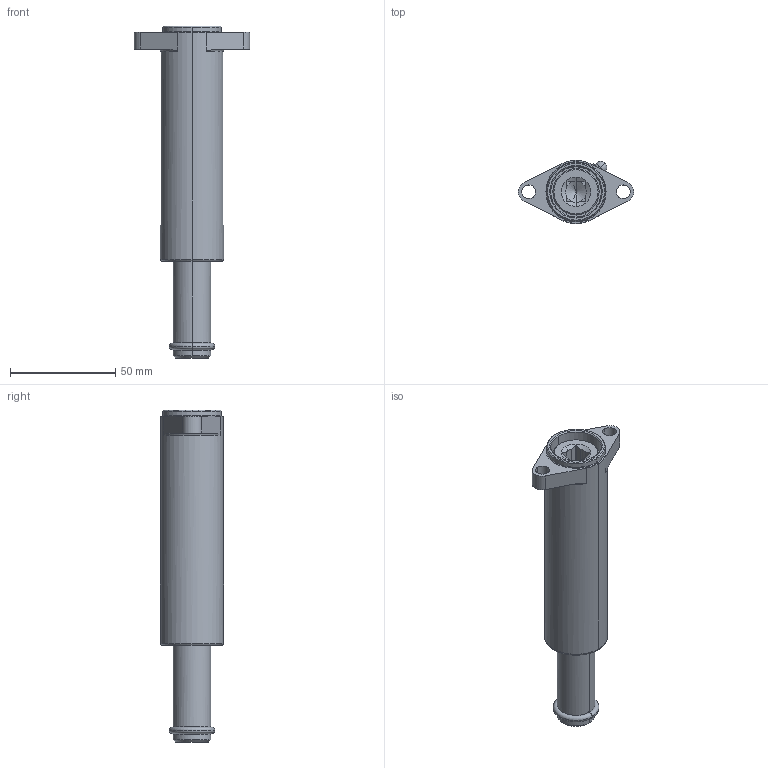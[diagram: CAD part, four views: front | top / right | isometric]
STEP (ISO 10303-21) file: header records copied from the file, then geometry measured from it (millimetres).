
FILE_DESCRIPTION (( 'STEP AP214' ), '1' );
FILE_NAME ('TNA1-SA02-30.STEP', '2011-12-15T00:32:54', ( '' ), ( '' ), 'SwSTEP 2.0', 'SolidWorks 2012', '' );
FILE_SCHEMA (( 'AUTOMOTIVE_DESIGN' ));
Length unit declared in the file: millimetre
Products named in the file (1): TNA1-SA02-30
Bounding box: 54.96 x 30 x 158 mm (x, y, z)
Volume: 64039.6 mm3; surface area: 31231.1 mm2
Topology: 2 solids, 2 shells, 185 faces, 503 edges, 324 vertices
Faces by surface type: cylinder 88, plane 63, cone 16, torus 14, sphere 4
Entity records: 7368 total; most frequent: CARTESIAN_POINT 1369, DIRECTION 1065, ORIENTED_EDGE 994, EDGE_CURVE 497, AXIS2_PLACEMENT_3D 440, VERTEX_POINT 324, CIRCLE 254, EDGE_LOOP 205
